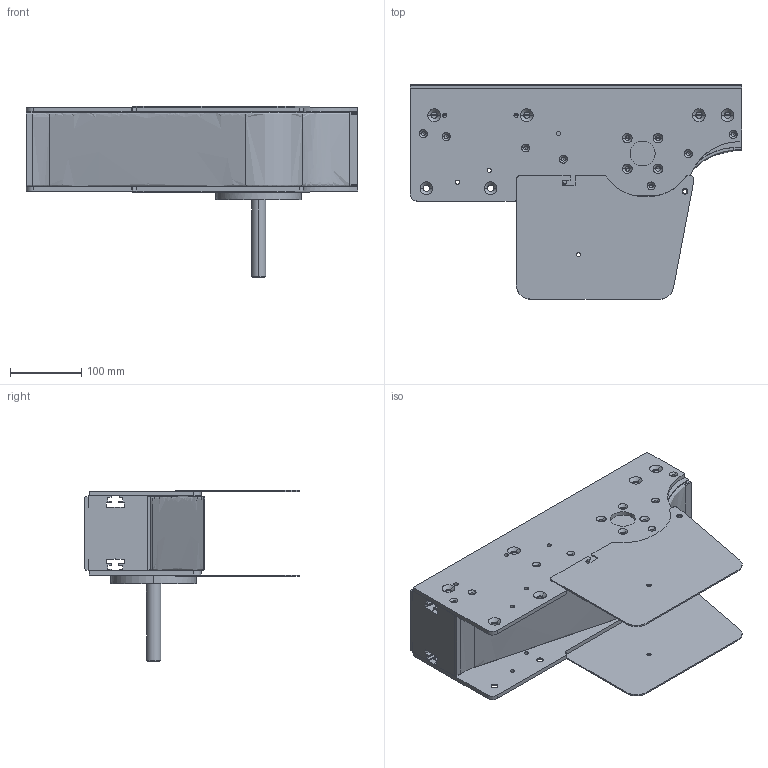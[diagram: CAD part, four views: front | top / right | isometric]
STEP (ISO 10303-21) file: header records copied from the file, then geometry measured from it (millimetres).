
FILE_DESCRIPTION (( 'STEP AP214' ), '1' );
FILE_NAME ('FCID DD 0L.step', '2017-04-07T11:06:16', ( '' ), ( '' ), 'SwSTEP 2.0', 'SolidWorks 2016', '' );
FILE_SCHEMA (( 'AUTOMOTIVE_DESIGN' ));
Length unit declared in the file: millimetre
Products named in the file (1): FCID DD 0L
Bounding box: 465 x 300.72 x 240.7 mm (x, y, z)
Volume: 7007957.8 mm3; surface area: 669945.3 mm2
Topology: 1 solids, 3 shells, 492 faces, 1305 edges, 798 vertices
Faces by surface type: cylinder 213, plane 143, cone 122, bspline 14
Entity records: 19638 total; most frequent: CARTESIAN_POINT 4967, DIRECTION 2724, ORIENTED_EDGE 2522, EDGE_CURVE 1261, AXIS2_PLACEMENT_3D 1018, VERTEX_POINT 798, LINE 688, VECTOR 688
